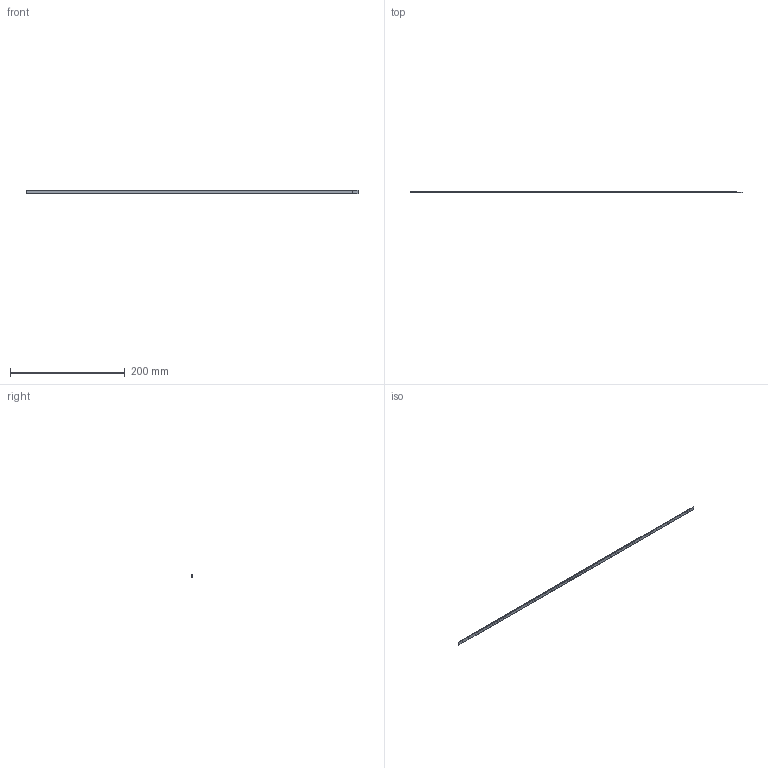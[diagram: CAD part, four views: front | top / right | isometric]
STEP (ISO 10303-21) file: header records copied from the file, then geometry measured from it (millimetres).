
FILE_DESCRIPTION (( 'STEP AP214' ), '1' );
FILE_NAME ('BXEB-L0570A (15-000721 revB).STEP', '2020-11-12T07:29:14', ( '' ), ( '' ), 'SwSTEP 2.0', 'SolidWorks 2020', '' );
FILE_SCHEMA (( 'AUTOMOTIVE_DESIGN' ));
Length unit declared in the file: millimetre
Products named in the file (1): BXEB-L0570A (15-000721 revB)
Bounding box: 579.8 x 2.25 x 6 mm (x, y, z)
Volume: 4809.8 mm3; surface area: 17136.4 mm2
Topology: 107 solids, 107 shells, 1973 faces, 4818 edges, 3212 vertices
Faces by surface type: plane 1401, bspline 568, cylinder 4
Full cylindrical faces by diameter (mm): 0.179 x1, 0.265 x1, 1 x2
Entity records: 95787 total; most frequent: CARTESIAN_POINT 36928, ORIENTED_EDGE 9620, DIRECTION 6494, EDGE_CURVE 4810, LINE 3666, VECTOR 3666, VERTEX_POINT 3212, EDGE_LOOP 2134
